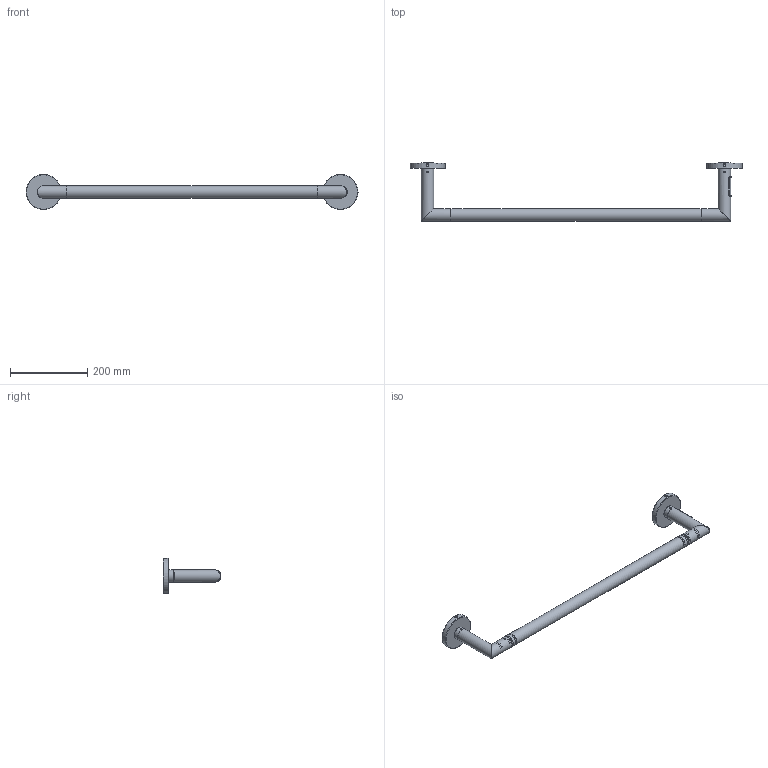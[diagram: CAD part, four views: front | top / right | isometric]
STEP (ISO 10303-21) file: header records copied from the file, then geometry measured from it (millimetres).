
FILE_DESCRIPTION(/* description */ ('Unknown'),/* implementation_level */ '2;1');
FILE_NAME(/* name */ 'IN1SS-L',/* time_stamp */ '2024-06-02T20:48:16+02:00',/* author */ ('Unknown'),/* organization */ ('Unknown'),/* preprocessor_version */ 'ST-DEVELOPER v18.102',/* originating_system */ 'Solid Edge',/* authorisation */ 'Unknown');
FILE_SCHEMA (('AP242_MANAGED_MODEL_BASED_3D_ENGINEERING_MIM_LF { 1 0 10303 442 1 1 4 }','AUTOMOTIVE_DESIGN {1 0 10303 214 3 1 1}'));
Length unit declared in the file: millimetre
Products named in the file (15): IN-L - INGA levá; IN-H-TR-32-1-647; IN-K-L-P - Koleno levé s pøepínaèem; IN-K-TR-P-L- Tr. kolena u rozety s pøepínaèem L; IN-K-TR-K - Tr. kolena u konektoru; PD-R-1 - Rozeta; PD-R-2 - Držák rozety; IN-K-L - Koleno levé; IN-K-TR-R-L - Tr. kolena u rozety L; PD-K-1 - Konektor 30x60; PD-K-2 - Konektor 30x60 s dírou pro kabel; Sestava p鷫p璯a鋀; PD-P-1 - Spodní díl pøepínaèe; PD-P-2 - Horní díl pøepínaèe; PD-P-3 - Kryt p鷫p璯a鋀
Assembly tree (17 placements, depth 3):
  IN-L - INGA levá
    IN-H-TR-32-1-647
    IN-K-L-P - Koleno levé s pøepínaèem
      IN-K-TR-P-L- Tr. kolena u rozety s pøepínaèem L
      IN-K-TR-K - Tr. kolena u konektoru
      PD-R-1 - Rozeta
      PD-R-2 - Držák rozety
    IN-K-L - Koleno levé
      IN-K-TR-R-L - Tr. kolena u rozety L
      IN-K-TR-K - Tr. kolena u konektoru
      PD-R-1 - Rozeta
      PD-R-2 - Držák rozety
    PD-K-1 - Konektor 30x60
    PD-K-2 - Konektor 30x60 s dírou pro kabel
    Sestava p鷫p璯a鋀
      PD-P-1 - Spodní díl pøepínaèe
      PD-P-2 - Horní díl pøepínaèe
      PD-P-3 - Kryt p鷫p璯a鋀
Bounding box: 859 x 150 x 91 mm (x, y, z)
Volume: 255094.8 mm3; surface area: 299509 mm2
Topology: 14 solids, 14 shells, 1042 faces, 2765 edges, 1719 vertices
Faces by surface type: plane 400, cylinder 374, torus 138, bspline 64, sphere 34, cone 32
Full cylindrical faces by diameter (mm): 2.4 x2, 3.4 x2, 4.3 x7, 5 x2, 5.2 x2, 5.5 x2, 12.5 x1, 21 x2, 23 x2, 25.1 x4, 26.1 x4, 28.5 x6, 29 x6, 29.5 x6, 30 x1, 32 x5, 81.8 x2, 87.2 x2, 91 x2
Entity records: 31358 total; most frequent: CARTESIAN_POINT 9484, ORIENTED_EDGE 4408, DIRECTION 4084, EDGE_CURVE 2204, AXIS2_PLACEMENT_3D 1564, VERTEX_POINT 1434, EDGE_LOOP 1106, FACE_BOUND 1106
